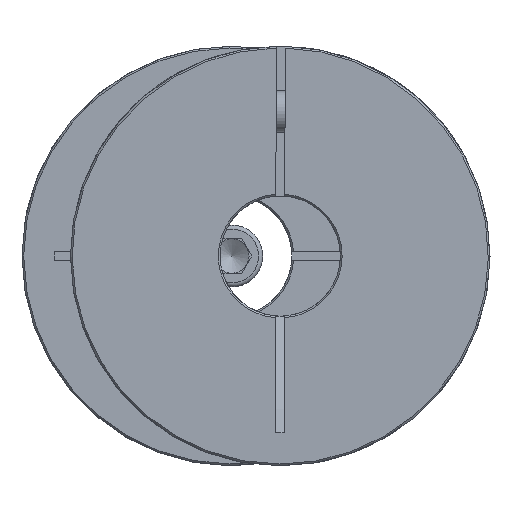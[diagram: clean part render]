
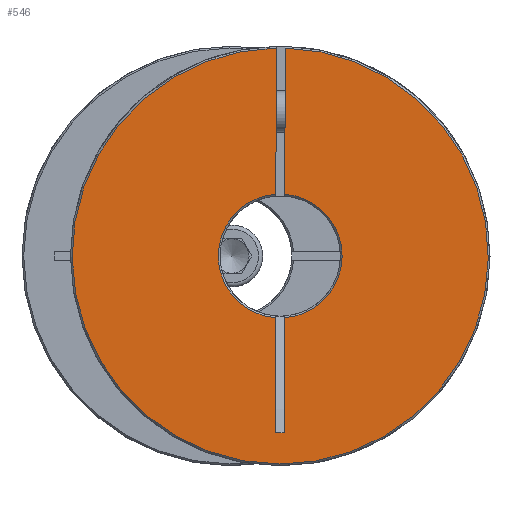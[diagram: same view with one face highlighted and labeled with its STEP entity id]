
A CAD part, left-side view. The second image highlights one B-rep face of the part: STEP entity #546.
In plain terms, the highlighted planar face has unit normal (-1, 0, 0).
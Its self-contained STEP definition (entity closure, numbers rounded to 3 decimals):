
#546 = ADVANCED_FACE( 'NONE', ( #845 ), #846, .F. );
#845 = FACE_OUTER_BOUND( '', #1019, .T. );
#846 = PLANE( '', #1020 );
#1019 = EDGE_LOOP( '', ( #1367, #1368, #1369, #1370, #1371, #1372, #1373, #1374 ) );
#1020 = AXIS2_PLACEMENT_3D( '', #1375, #1376, #1377 );
#1367 = ORIENTED_EDGE( '', *, *, #1617, .T. );
#1368 = ORIENTED_EDGE( '', *, *, #1596, .T. );
#1369 = ORIENTED_EDGE( '', *, *, #1625, .T. );
#1370 = ORIENTED_EDGE( '', *, *, #1626, .T. );
#1371 = ORIENTED_EDGE( '', *, *, #1612, .F. );
#1372 = ORIENTED_EDGE( '', *, *, #1610, .T. );
#1373 = ORIENTED_EDGE( '', *, *, #1619, .F. );
#1374 = ORIENTED_EDGE( '', *, *, #1627, .T. );
#1375 = CARTESIAN_POINT( '', ( 0., 17.5, 0. ) );
#1376 = DIRECTION( '', ( 1., 0., 0. ) );
#1377 = DIRECTION( '', ( 0., 1., 0. ) );
#1596 = EDGE_CURVE( 'NONE', #1815, #1816, #1817, .T. );
#1610 = EDGE_CURVE( 'NONE', #1841, #1839, #1842, .T. );
#1612 = EDGE_CURVE( 'NONE', #1841, #1844, #1845, .F. );
#1617 = EDGE_CURVE( 'NONE', #1853, #1815, #1854, .T. );
#1619 = EDGE_CURVE( 'NONE', #1856, #1839, #1857, .F. );
#1625 = EDGE_CURVE( 'NONE', #1816, #1866, #1867, .T. );
#1626 = EDGE_CURVE( 'NONE', #1866, #1844, #1868, .F. );
#1627 = EDGE_CURVE( 'NONE', #1856, #1853, #1869, .T. );
#1815 = VERTEX_POINT( 'NONE', #1980 );
#1816 = VERTEX_POINT( 'NONE', #1981 );
#1817 = CIRCLE( '', #1982, 18. );
#1839 = VERTEX_POINT( 'NONE', #2018 );
#1841 = VERTEX_POINT( 'NONE', #2023 );
#1842 = CIRCLE( '', #2024, 18. );
#1844 = VERTEX_POINT( 'NONE', #2029 );
#1845 = LINE( '', #2030, #2031 );
#1853 = VERTEX_POINT( 'NONE', #2044 );
#1854 = LINE( '', #2045, #2046 );
#1856 = VERTEX_POINT( 'NONE', #2048 );
#1857 = LINE( '', #2049, #2050 );
#1866 = VERTEX_POINT( 'NONE', #2059 );
#1867 = LINE( '', #2060, #2061 );
#1868 = CIRCLE( '', #2062, 60.5 );
#1869 = LINE( '', #2063, #2064 );
#1980 = CARTESIAN_POINT( '', ( 0., 17.953, 1.3 ) );
#1981 = CARTESIAN_POINT( '', ( 0., -17.953, 1.3 ) );
#1982 = AXIS2_PLACEMENT_3D( '', #2334, #2335, #2336 );
#2018 = CARTESIAN_POINT( '', ( 0., 17.953, -1.3 ) );
#2023 = CARTESIAN_POINT( '', ( 0., -17.953, -1.3 ) );
#2024 = AXIS2_PLACEMENT_3D( '', #2354, #2355, #2356 );
#2029 = CARTESIAN_POINT( '', ( 0., -60.486, -1.3 ) );
#2030 = CARTESIAN_POINT( '', ( 0., -13., -1.3 ) );
#2031 = VECTOR( '', #2357, 1000. );
#2044 = CARTESIAN_POINT( '', ( 0., 51.446, 1.3 ) );
#2045 = CARTESIAN_POINT( '', ( 0., 17.5, 1.3 ) );
#2046 = VECTOR( '', #2363, 1000. );
#2048 = CARTESIAN_POINT( '', ( 0., 51.446, -1.3 ) );
#2049 = CARTESIAN_POINT( '', ( 0., -13., -1.3 ) );
#2050 = VECTOR( '', #2367, 1000. );
#2059 = CARTESIAN_POINT( '', ( 0., -60.486, 1.3 ) );
#2060 = CARTESIAN_POINT( '', ( 0., 17.5, 1.3 ) );
#2061 = VECTOR( '', #2383, 1000. );
#2062 = AXIS2_PLACEMENT_3D( '', #2384, #2385, #2386 );
#2063 = CARTESIAN_POINT( '', ( 0., 51.446, -1.3 ) );
#2064 = VECTOR( '', #2387, 1000. );
#2334 = CARTESIAN_POINT( '', ( 0., 0., 0. ) );
#2335 = DIRECTION( '', ( 1., 0., 0. ) );
#2336 = DIRECTION( '', ( 0., 0., -1. ) );
#2354 = CARTESIAN_POINT( '', ( 0., 0., 0. ) );
#2355 = DIRECTION( '', ( 1., 0., 0. ) );
#2356 = DIRECTION( '', ( 0., 0., -1. ) );
#2357 = DIRECTION( '', ( 0., 1., 0. ) );
#2363 = DIRECTION( '', ( 0., -1., 0. ) );
#2367 = DIRECTION( '', ( 0., 1., 0. ) );
#2383 = DIRECTION( '', ( 0., -1., 0. ) );
#2384 = CARTESIAN_POINT( '', ( 0., 0., 0. ) );
#2385 = DIRECTION( '', ( 1., 0., 0. ) );
#2386 = DIRECTION( '', ( 0., 0., -1. ) );
#2387 = DIRECTION( '', ( 0., 0., 1. ) );
